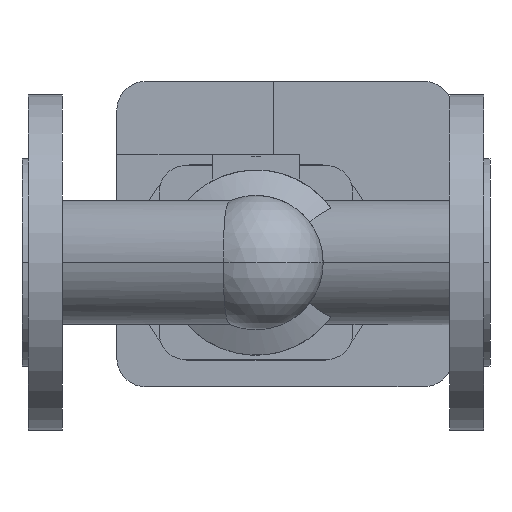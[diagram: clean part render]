
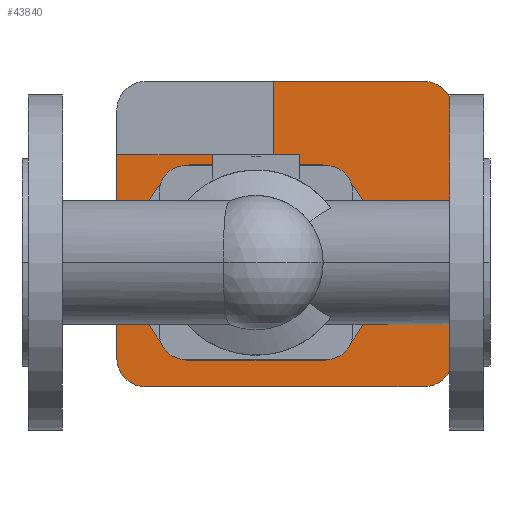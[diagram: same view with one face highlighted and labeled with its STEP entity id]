
A CAD part, front view. The second image highlights one B-rep face of the part: STEP entity #43840.
In plain terms, the highlighted planar face has unit normal (0, -1, 0).
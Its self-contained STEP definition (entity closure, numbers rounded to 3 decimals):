
#35580=CARTESIAN_POINT('',(174.96,326.,11.216));
#35590=VERTEX_POINT('',#35580);
#35620=CARTESIAN_POINT('',(165.,326.,0.));
#35630=DIRECTION('',(0.,1.,0.));
#35640=DIRECTION('',(0.,0.,1.));
#35650=AXIS2_PLACEMENT_3D('',#35620,#35630,#35640);
#35660=CIRCLE('',#35650,15.);
#35670=CARTESIAN_POINT('',(174.96,326.,-11.216));
#35680=VERTEX_POINT('',#35670);
#35690=EDGE_CURVE('',#35590,#35680,#35660,.T.);
#38410=CARTESIAN_POINT('',(157.116,326.,44.128));
#38420=VERTEX_POINT('',#38410);
#38450=CARTESIAN_POINT('',(115.,326.,0.));
#38460=DIRECTION('',(0.,1.,0.));
#38470=DIRECTION('',(0.69,0.,0.723));
#38480=AXIS2_PLACEMENT_3D('',#38450,#38460,#38470);
#38490=CIRCLE('',#38480,61.);
#38500=EDGE_CURVE('',#38420,#35590,#38490,.T.);
#38890=CARTESIAN_POINT('',(55.04,326.,-11.216));
#38900=VERTEX_POINT('',#38890);
#38930=CARTESIAN_POINT('',(65.,326.,0.));
#38940=DIRECTION('',(0.,1.,0.));
#38950=DIRECTION('',(0.,0.,-1.));
#38960=AXIS2_PLACEMENT_3D('',#38930,#38940,#38950);
#38970=CIRCLE('',#38960,15.);
#38980=CARTESIAN_POINT('',(55.04,326.,11.216));
#38990=VERTEX_POINT('',#38980);
#39000=EDGE_CURVE('',#38900,#38990,#38970,.T.);
#39990=CARTESIAN_POINT('',(72.884,326.,-44.128));
#40000=VERTEX_POINT('',#39990);
#40030=CARTESIAN_POINT('',(115.,326.,0.));
#40040=DIRECTION('',(0.,1.,0.));
#40050=DIRECTION('',(-0.69,0.,-0.723));
#40060=AXIS2_PLACEMENT_3D('',#40030,#40040,#40050);
#40070=CIRCLE('',#40060,61.);
#40080=EDGE_CURVE('',#40000,#38900,#40070,.T.);
#42300=CARTESIAN_POINT('',(115.,326.,0.));
#42310=DIRECTION('',(0.,1.,0.));
#42320=DIRECTION('',(0.,0.,1.));
#42330=AXIS2_PLACEMENT_3D('',#42300,#42310,#42320);
#42340=PLANE('',#42330);
#42350=ORIENTED_EDGE('',*,*,#38500,.T.);
#42360=CARTESIAN_POINT('',(147.45,326.,34.));
#42370=DIRECTION('',(0.,1.,0.));
#42380=DIRECTION('',(0.,0.,1.));
#42390=AXIS2_PLACEMENT_3D('',#42360,#42370,#42380);
#42400=CIRCLE('',#42390,14.);
#42410=CARTESIAN_POINT('',(147.45,326.,48.));
#42420=VERTEX_POINT('',#42410);
#42430=EDGE_CURVE('',#42420,#38420,#42400,.T.);
#42440=ORIENTED_EDGE('',*,*,#42430,.T.);
#42450=CARTESIAN_POINT('',(98.775,326.,48.));
#42460=DIRECTION('',(1.,0.,0.));
#42470=VECTOR('',#42460,1.);
#42480=LINE('',#42450,#42470);
#42490=CARTESIAN_POINT('',(82.55,326.,48.));
#42500=VERTEX_POINT('',#42490);
#42510=EDGE_CURVE('',#42500,#42420,#42480,.T.);
#42520=ORIENTED_EDGE('',*,*,#42510,.T.);
#42530=CARTESIAN_POINT('',(82.55,326.,34.));
#42540=DIRECTION('',(0.,1.,0.));
#42550=DIRECTION('',(-0.69,0.,0.723));
#42560=AXIS2_PLACEMENT_3D('',#42530,#42540,#42550);
#42570=CIRCLE('',#42560,14.);
#42580=CARTESIAN_POINT('',(72.884,326.,44.128));
#42590=VERTEX_POINT('',#42580);
#42600=EDGE_CURVE('',#42590,#42500,#42570,.T.);
#42610=ORIENTED_EDGE('',*,*,#42600,.T.);
#42620=CARTESIAN_POINT('',(115.,326.,0.));
#42630=DIRECTION('',(0.,1.,0.));
#42640=DIRECTION('',(-0.69,0.,-0.723));
#42650=AXIS2_PLACEMENT_3D('',#42620,#42630,#42640);
#42660=CIRCLE('',#42650,61.);
#42670=EDGE_CURVE('',#38990,#42590,#42660,.T.);
#42680=ORIENTED_EDGE('',*,*,#42670,.T.);
#42690=ORIENTED_EDGE('',*,*,#39000,.T.);
#42700=ORIENTED_EDGE('',*,*,#40080,.T.);
#42710=CARTESIAN_POINT('',(82.55,326.,-34.));
#42720=DIRECTION('',(0.,1.,0.));
#42730=DIRECTION('',(0.,0.,-1.));
#42740=AXIS2_PLACEMENT_3D('',#42710,#42720,#42730);
#42750=CIRCLE('',#42740,14.);
#42760=CARTESIAN_POINT('',(82.55,326.,-48.));
#42770=VERTEX_POINT('',#42760);
#42780=EDGE_CURVE('',#42770,#40000,#42750,.T.);
#42790=ORIENTED_EDGE('',*,*,#42780,.T.);
#42800=CARTESIAN_POINT('',(131.225,326.,-48.));
#42810=DIRECTION('',(-1.,0.,0.));
#42820=VECTOR('',#42810,1.);
#42830=LINE('',#42800,#42820);
#42840=CARTESIAN_POINT('',(147.45,326.,-48.));
#42850=VERTEX_POINT('',#42840);
#42860=EDGE_CURVE('',#42850,#42770,#42830,.T.);
#42870=ORIENTED_EDGE('',*,*,#42860,.T.);
#42880=CARTESIAN_POINT('',(147.45,326.,-34.));
#42890=DIRECTION('',(0.,1.,0.));
#42900=DIRECTION('',(0.69,0.,-0.723));
#42910=AXIS2_PLACEMENT_3D('',#42880,#42890,#42900);
#42920=CIRCLE('',#42910,14.);
#42930=CARTESIAN_POINT('',(157.116,326.,-44.128));
#42940=VERTEX_POINT('',#42930);
#42950=EDGE_CURVE('',#42940,#42850,#42920,.T.);
#42960=ORIENTED_EDGE('',*,*,#42950,.T.);
#42970=CARTESIAN_POINT('',(115.,326.,0.));
#42980=DIRECTION('',(0.,1.,0.));
#42990=DIRECTION('',(0.69,0.,0.723));
#43000=AXIS2_PLACEMENT_3D('',#42970,#42980,#42990);
#43010=CIRCLE('',#43000,61.);
#43020=EDGE_CURVE('',#35680,#42940,#43010,.T.);
#43030=ORIENTED_EDGE('',*,*,#43020,.T.);
#43040=ORIENTED_EDGE('',*,*,#35690,.T.);
#43050=EDGE_LOOP('',(#43040,#43030,#42960,#42870,#42790,#42700,#42690,
#42680,#42610,#42520,#42440,#42350));
#43060=FACE_BOUND('',#43050,.T.);
#43070=CARTESIAN_POINT('',(123.6,326.,26.5));
#43080=DIRECTION('',(0.,0.,-1.));
#43090=VECTOR('',#43080,1.);
#43100=LINE('',#43070,#43090);
#43110=CARTESIAN_POINT('',(123.6,326.,89.));
#43120=VERTEX_POINT('',#43110);
#43130=CARTESIAN_POINT('',(123.6,326.,53.));
#43140=VERTEX_POINT('',#43130);
#43150=EDGE_CURVE('',#43120,#43140,#43100,.T.);
#43160=ORIENTED_EDGE('',*,*,#43150,.T.);
#43170=CARTESIAN_POINT('',(60.6,326.,89.));
#43180=DIRECTION('',(1.,0.,0.));
#43190=VECTOR('',#43180,1.);
#43200=LINE('',#43170,#43190);
#43210=CARTESIAN_POINT('',(197.6,326.,89.));
#43220=VERTEX_POINT('',#43210);
#43230=EDGE_CURVE('',#43120,#43220,#43200,.T.);
#43240=ORIENTED_EDGE('',*,*,#43230,.F.);
#43250=CARTESIAN_POINT('',(197.6,326.,75.));
#43260=DIRECTION('',(0.,1.,0.));
#43270=DIRECTION('',(0.,0.,1.));
#43280=AXIS2_PLACEMENT_3D('',#43250,#43260,#43270);
#43290=CIRCLE('',#43280,14.);
#43300=CARTESIAN_POINT('',(211.6,326.,75.));
#43310=VERTEX_POINT('',#43300);
#43320=EDGE_CURVE('',#43220,#43310,#43290,.T.);
#43330=ORIENTED_EDGE('',*,*,#43320,.F.);
#43340=CARTESIAN_POINT('',(211.6,326.,75.));
#43350=DIRECTION('',(0.,0.,-1.));
#43360=VECTOR('',#43350,1.);
#43370=LINE('',#43340,#43360);
#43380=CARTESIAN_POINT('',(211.6,326.,-47.));
#43390=VERTEX_POINT('',#43380);
#43400=EDGE_CURVE('',#43310,#43390,#43370,.T.);
#43410=ORIENTED_EDGE('',*,*,#43400,.F.);
#43420=CARTESIAN_POINT('',(197.6,326.,-47.));
#43430=DIRECTION('',(0.,1.,0.));
#43440=DIRECTION('',(1.,0.,0.));
#43450=AXIS2_PLACEMENT_3D('',#43420,#43430,#43440);
#43460=CIRCLE('',#43450,14.);
#43470=CARTESIAN_POINT('',(197.6,326.,-61.));
#43480=VERTEX_POINT('',#43470);
#43490=EDGE_CURVE('',#43390,#43480,#43460,.T.);
#43500=ORIENTED_EDGE('',*,*,#43490,.F.);
#43510=CARTESIAN_POINT('',(197.6,326.,-61.));
#43520=DIRECTION('',(-1.,0.,0.));
#43530=VECTOR('',#43520,1.);
#43540=LINE('',#43510,#43530);
#43550=CARTESIAN_POINT('',(60.6,326.,-61.));
#43560=VERTEX_POINT('',#43550);
#43570=EDGE_CURVE('',#43480,#43560,#43540,.T.);
#43580=ORIENTED_EDGE('',*,*,#43570,.F.);
#43590=CARTESIAN_POINT('',(60.6,326.,-47.));
#43600=DIRECTION('',(0.,1.,0.));
#43610=DIRECTION('',(0.,0.,-1.));
#43620=AXIS2_PLACEMENT_3D('',#43590,#43600,#43610);
#43630=CIRCLE('',#43620,14.);
#43640=CARTESIAN_POINT('',(46.6,326.,-47.));
#43650=VERTEX_POINT('',#43640);
#43660=EDGE_CURVE('',#43560,#43650,#43630,.T.);
#43670=ORIENTED_EDGE('',*,*,#43660,.F.);
#43680=CARTESIAN_POINT('',(46.6,326.,-47.));
#43690=DIRECTION('',(0.,0.,1.));
#43700=VECTOR('',#43690,1.);
#43710=LINE('',#43680,#43700);
#43720=CARTESIAN_POINT('',(46.6,326.,53.));
#43730=VERTEX_POINT('',#43720);
#43740=EDGE_CURVE('',#43650,#43730,#43710,.T.);
#43750=ORIENTED_EDGE('',*,*,#43740,.F.);
#43760=CARTESIAN_POINT('',(80.3,326.,53.));
#43770=DIRECTION('',(-1.,0.,0.));
#43780=VECTOR('',#43770,1.);
#43790=LINE('',#43760,#43780);
#43800=EDGE_CURVE('',#43140,#43730,#43790,.T.);
#43810=ORIENTED_EDGE('',*,*,#43800,.T.);
#43820=EDGE_LOOP('',(#43810,#43750,#43670,#43580,#43500,#43410,#43330,
#43240,#43160));
#43830=FACE_OUTER_BOUND('',#43820,.T.);
#43840=ADVANCED_FACE('',(#43060,#43830),#42340,.F.);
